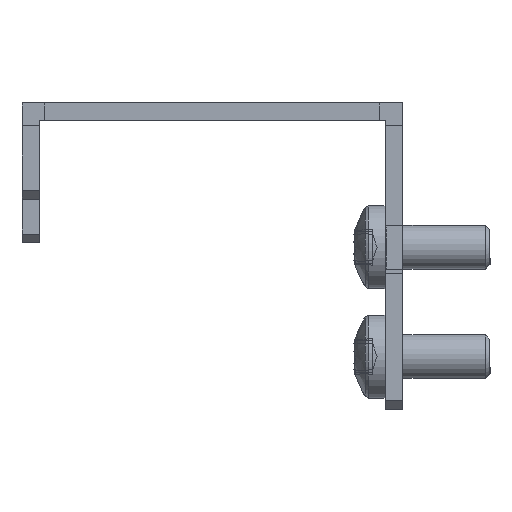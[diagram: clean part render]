
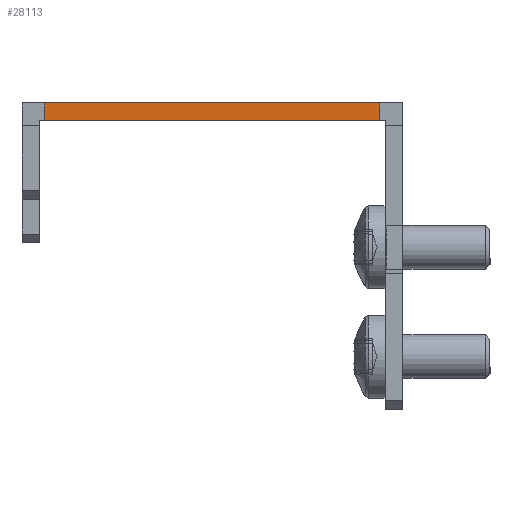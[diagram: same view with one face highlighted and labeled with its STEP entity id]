
A CAD part, left-side view. The second image highlights one B-rep face of the part: STEP entity #28113.
In plain terms, the highlighted planar face has unit normal (-1, 0, 0) as drawn and (1, 0, 0) by its records, which use the part's own axes.
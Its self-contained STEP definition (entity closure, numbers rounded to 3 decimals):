
#19958 = VERTEX_POINT('',#19959);
#19959 = CARTESIAN_POINT('',(781.,19.15,-2.));
#19965 = EDGE_CURVE('',#19966,#19958,#19968,.T.);
#19966 = VERTEX_POINT('',#19967);
#19967 = CARTESIAN_POINT('',(781.,-19.15,-2.));
#19968 = LINE('',#19969,#19970);
#19969 = CARTESIAN_POINT('',(781.,-21.75,-2.));
#19970 = VECTOR('',#19971,1.);
#19971 = DIRECTION('',(0.,1.,0.));
#27533 = VERTEX_POINT('',#27534);
#27534 = CARTESIAN_POINT('',(781.,-19.15,0.));
#27540 = EDGE_CURVE('',#27533,#27541,#27543,.T.);
#27541 = VERTEX_POINT('',#27542);
#27542 = CARTESIAN_POINT('',(781.,19.15,0.));
#27543 = LINE('',#27544,#27545);
#27544 = CARTESIAN_POINT('',(781.,-21.75,0.));
#27545 = VECTOR('',#27546,1.);
#27546 = DIRECTION('',(0.,1.,0.));
#28113 = ADVANCED_FACE('',(#28114),#28130,.T.);
#28114 = FACE_BOUND('',#28115,.T.);
#28115 = EDGE_LOOP('',(#28116,#28122,#28123,#28129));
#28116 = ORIENTED_EDGE('',*,*,#28117,.F.);
#28117 = EDGE_CURVE('',#19966,#27533,#28118,.T.);
#28118 = LINE('',#28119,#28120);
#28119 = CARTESIAN_POINT('',(781.,-19.15,-2.));
#28120 = VECTOR('',#28121,1.);
#28121 = DIRECTION('',(0.,0.,1.));
#28122 = ORIENTED_EDGE('',*,*,#19965,.T.);
#28123 = ORIENTED_EDGE('',*,*,#28124,.T.);
#28124 = EDGE_CURVE('',#19958,#27541,#28125,.T.);
#28125 = LINE('',#28126,#28127);
#28126 = CARTESIAN_POINT('',(781.,19.15,-2.));
#28127 = VECTOR('',#28128,1.);
#28128 = DIRECTION('',(0.,0.,1.));
#28129 = ORIENTED_EDGE('',*,*,#27540,.F.);
#28130 = PLANE('',#28131);
#28131 = AXIS2_PLACEMENT_3D('',#28132,#28133,#28134);
#28132 = CARTESIAN_POINT('',(781.,-21.75,-2.));
#28133 = DIRECTION('',(1.,0.,0.));
#28134 = DIRECTION('',(0.,0.,-1.));
